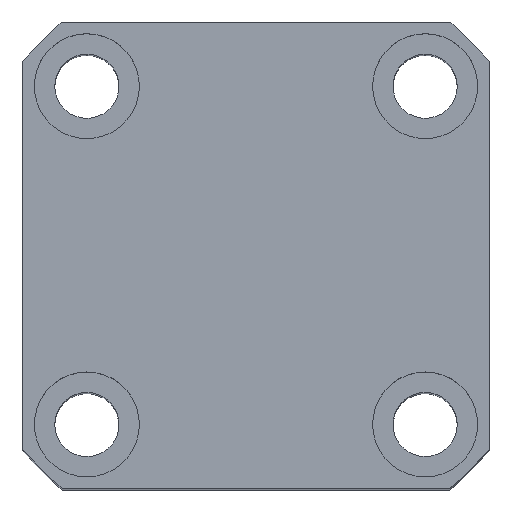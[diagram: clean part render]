
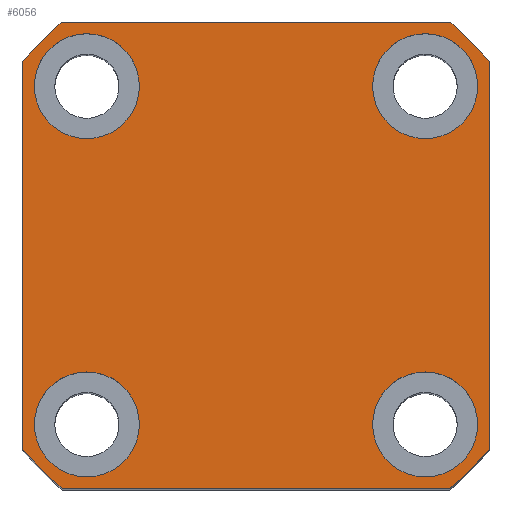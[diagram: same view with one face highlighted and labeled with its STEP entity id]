
A CAD part, top view. The second image highlights one B-rep face of the part: STEP entity #6056.
In plain terms, the highlighted planar face has unit normal (0, 0, 1).
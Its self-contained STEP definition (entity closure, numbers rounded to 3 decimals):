
#78 = EDGE_CURVE ( 'NONE', #2007, #1064, #3026, .T. ) ;
#188 = DIRECTION ( 'NONE',  ( 0., 0., 1. ) ) ;
#239 = CIRCLE ( 'NONE', #492, 9. ) ;
#358 = VECTOR ( 'NONE', #4172, 1000. ) ;
#394 = DIRECTION ( 'NONE',  ( 1., 0., 0. ) ) ;
#419 = CARTESIAN_POINT ( 'NONE',  ( 0., 0., 70. ) ) ;
#481 = CARTESIAN_POINT ( 'NONE',  ( 0., 0., 70. ) ) ;
#492 = AXIS2_PLACEMENT_3D ( 'NONE', #10453, #4705, #9617 ) ;
#525 = DIRECTION ( 'NONE',  ( 1., 0., 0. ) ) ;
#600 = CARTESIAN_POINT ( 'NONE',  ( 38., -29., 70. ) ) ;
#611 = CARTESIAN_POINT ( 'NONE',  ( 20., -29., 70. ) ) ;
#644 = VERTEX_POINT ( 'NONE', #8137 ) ;
#674 = AXIS2_PLACEMENT_3D ( 'NONE', #9545, #7855, #8811 ) ;
#678 = CARTESIAN_POINT ( 'NONE',  ( 29., -29., 70. ) ) ;
#688 = ORIENTED_EDGE ( 'NONE', *, *, #78, .T. ) ;
#776 = EDGE_CURVE ( 'NONE', #10511, #10022, #2346, .T. ) ;
#817 = ORIENTED_EDGE ( 'NONE', *, *, #1831, .F. ) ;
#843 = EDGE_CURVE ( 'NONE', #8769, #1997, #3267, .T. ) ;
#845 = FACE_BOUND ( 'NONE', #6580, .T. ) ;
#955 = VERTEX_POINT ( 'NONE', #7442 ) ;
#978 = CARTESIAN_POINT ( 'NONE',  ( -29., -29., 70. ) ) ;
#1050 = DIRECTION ( 'NONE',  ( 1., 0., 0. ) ) ;
#1060 = AXIS2_PLACEMENT_3D ( 'NONE', #5330, #8571, #9441 ) ;
#1064 = VERTEX_POINT ( 'NONE', #1818 ) ;
#1083 = CARTESIAN_POINT ( 'NONE',  ( 0., 0., 70. ) ) ;
#1219 = EDGE_CURVE ( 'NONE', #10022, #10511, #10700, .T. ) ;
#1303 = VECTOR ( 'NONE', #6231, 1000. ) ;
#1308 = CARTESIAN_POINT ( 'NONE',  ( 40., -33.226, 70. ) ) ;
#1330 = CARTESIAN_POINT ( 'NONE',  ( -29., -29., 70. ) ) ;
#1552 = CARTESIAN_POINT ( 'NONE',  ( 40., 33.226, 70. ) ) ;
#1818 = CARTESIAN_POINT ( 'NONE',  ( 33.226, 40., 70. ) ) ;
#1831 = EDGE_CURVE ( 'NONE', #9577, #9167, #1931, .T. ) ;
#1897 = VECTOR ( 'NONE', #8950, 1000. ) ;
#1931 = CIRCLE ( 'NONE', #2365, 9. ) ;
#1973 = EDGE_CURVE ( 'NONE', #7228, #955, #9386, .T. ) ;
#1997 = VERTEX_POINT ( 'NONE', #3081 ) ;
#2007 = VERTEX_POINT ( 'NONE', #9665 ) ;
#2015 = CIRCLE ( 'NONE', #674, 52. ) ;
#2107 = ORIENTED_EDGE ( 'NONE', *, *, #8727, .F. ) ;
#2175 = LINE ( 'NONE', #4076, #1897 ) ;
#2227 = AXIS2_PLACEMENT_3D ( 'NONE', #2457, #7509, #2418 ) ;
#2234 = EDGE_CURVE ( 'NONE', #644, #9414, #4177, .T. ) ;
#2322 = ORIENTED_EDGE ( 'NONE', *, *, #4929, .T. ) ;
#2346 = CIRCLE ( 'NONE', #3979, 9. ) ;
#2365 = AXIS2_PLACEMENT_3D ( 'NONE', #3465, #188, #7720 ) ;
#2418 = DIRECTION ( 'NONE',  ( 1., 0., 0. ) ) ;
#2457 = CARTESIAN_POINT ( 'NONE',  ( -29., 29., 70. ) ) ;
#2874 = DIRECTION ( 'NONE',  ( 1., 0., 0. ) ) ;
#2993 = CIRCLE ( 'NONE', #8379, 9. ) ;
#3022 = CARTESIAN_POINT ( 'NONE',  ( 38., 29., 70. ) ) ;
#3026 = CIRCLE ( 'NONE', #3066, 52. ) ;
#3066 = AXIS2_PLACEMENT_3D ( 'NONE', #419, #7114, #2874 ) ;
#3081 = CARTESIAN_POINT ( 'NONE',  ( -20., 29., 70. ) ) ;
#3125 = VERTEX_POINT ( 'NONE', #5140 ) ;
#3267 = CIRCLE ( 'NONE', #2227, 9. ) ;
#3314 = EDGE_CURVE ( 'NONE', #1064, #5734, #4447, .T. ) ;
#3317 = ORIENTED_EDGE ( 'NONE', *, *, #4799, .F. ) ;
#3465 = CARTESIAN_POINT ( 'NONE',  ( 29., 29., 70. ) ) ;
#3508 = EDGE_LOOP ( 'NONE', ( #4819, #4056 ) ) ;
#3603 = EDGE_LOOP ( 'NONE', ( #9193, #10399 ) ) ;
#3712 = DIRECTION ( 'NONE',  ( 1., 0., 0. ) ) ;
#3739 = EDGE_CURVE ( 'NONE', #10066, #644, #2175, .T. ) ;
#3916 = DIRECTION ( 'NONE',  ( 0., 0., 1. ) ) ;
#3929 = AXIS2_PLACEMENT_3D ( 'NONE', #978, #6970, #1050 ) ;
#3979 = AXIS2_PLACEMENT_3D ( 'NONE', #678, #8356, #8314 ) ;
#4056 = ORIENTED_EDGE ( 'NONE', *, *, #843, .F. ) ;
#4076 = CARTESIAN_POINT ( 'NONE',  ( -40., 33.226, 70. ) ) ;
#4172 = DIRECTION ( 'NONE',  ( 0., 1., 0. ) ) ;
#4177 = CIRCLE ( 'NONE', #6481, 52. ) ;
#4254 = CIRCLE ( 'NONE', #3929, 9. ) ;
#4447 = LINE ( 'NONE', #9548, #1303 ) ;
#4624 = CARTESIAN_POINT ( 'NONE',  ( -38., 29., 70. ) ) ;
#4676 = FACE_BOUND ( 'NONE', #8595, .T. ) ;
#4705 = DIRECTION ( 'NONE',  ( 0., 0., 1. ) ) ;
#4799 = EDGE_CURVE ( 'NONE', #955, #7228, #4254, .T. ) ;
#4819 = ORIENTED_EDGE ( 'NONE', *, *, #5275, .F. ) ;
#4929 = EDGE_CURVE ( 'NONE', #3125, #9090, #2015, .T. ) ;
#4999 = ORIENTED_EDGE ( 'NONE', *, *, #3739, .T. ) ;
#5140 = CARTESIAN_POINT ( 'NONE',  ( 33.226, -40., 70. ) ) ;
#5141 = EDGE_CURVE ( 'NONE', #9414, #3125, #10403, .T. ) ;
#5154 = CARTESIAN_POINT ( 'NONE',  ( -33.226, 40., 70. ) ) ;
#5275 = EDGE_CURVE ( 'NONE', #1997, #8769, #2993, .T. ) ;
#5330 = CARTESIAN_POINT ( 'NONE',  ( 29., -29., 70. ) ) ;
#5551 = DIRECTION ( 'NONE',  ( 1., 0., 0. ) ) ;
#5666 = CARTESIAN_POINT ( 'NONE',  ( -38., -29., 70. ) ) ;
#5716 = CARTESIAN_POINT ( 'NONE',  ( -29., 29., 70. ) ) ;
#5734 = VERTEX_POINT ( 'NONE', #5154 ) ;
#5742 = LINE ( 'NONE', #1552, #358 ) ;
#5766 = ORIENTED_EDGE ( 'NONE', *, *, #2234, .T. ) ;
#6056 = ADVANCED_FACE ( 'NONE', ( #6735, #845, #9481, #4676, #7264 ), #9697, .T. ) ;
#6231 = DIRECTION ( 'NONE',  ( -1., 0., 0. ) ) ;
#6377 = ORIENTED_EDGE ( 'NONE', *, *, #9888, .T. ) ;
#6481 = AXIS2_PLACEMENT_3D ( 'NONE', #1083, #9427, #7670 ) ;
#6573 = DIRECTION ( 'NONE',  ( 0., 0., 1. ) ) ;
#6580 = EDGE_LOOP ( 'NONE', ( #3317, #10638 ) ) ;
#6735 = FACE_BOUND ( 'NONE', #3603, .T. ) ;
#6737 = CARTESIAN_POINT ( 'NONE',  ( -33.226, -40., 70. ) ) ;
#6970 = DIRECTION ( 'NONE',  ( 0., 0., 1. ) ) ;
#7114 = DIRECTION ( 'NONE',  ( 0., 0., 1. ) ) ;
#7173 = CIRCLE ( 'NONE', #9956, 52. ) ;
#7190 = EDGE_LOOP ( 'NONE', ( #6377, #4999, #5766, #9455, #2322, #7633, #688, #10622 ) ) ;
#7228 = VERTEX_POINT ( 'NONE', #5666 ) ;
#7264 = FACE_OUTER_BOUND ( 'NONE', #7190, .T. ) ;
#7442 = CARTESIAN_POINT ( 'NONE',  ( -20., -29., 70. ) ) ;
#7509 = DIRECTION ( 'NONE',  ( 0., 0., 1. ) ) ;
#7633 = ORIENTED_EDGE ( 'NONE', *, *, #9261, .T. ) ;
#7670 = DIRECTION ( 'NONE',  ( 1., 0., 0. ) ) ;
#7720 = DIRECTION ( 'NONE',  ( 1., 0., 0. ) ) ;
#7855 = DIRECTION ( 'NONE',  ( 0., 0., 1. ) ) ;
#8137 = CARTESIAN_POINT ( 'NONE',  ( -40., -33.226, 70. ) ) ;
#8145 = DIRECTION ( 'NONE',  ( 1., 0., 0. ) ) ;
#8314 = DIRECTION ( 'NONE',  ( 1., 0., 0. ) ) ;
#8356 = DIRECTION ( 'NONE',  ( 0., 0., 1. ) ) ;
#8379 = AXIS2_PLACEMENT_3D ( 'NONE', #5716, #6573, #8145 ) ;
#8571 = DIRECTION ( 'NONE',  ( 0., 0., 1. ) ) ;
#8595 = EDGE_LOOP ( 'NONE', ( #2107, #817 ) ) ;
#8727 = EDGE_CURVE ( 'NONE', #9167, #9577, #239, .T. ) ;
#8769 = VERTEX_POINT ( 'NONE', #4624 ) ;
#8811 = DIRECTION ( 'NONE',  ( 1., 0., 0. ) ) ;
#8950 = DIRECTION ( 'NONE',  ( 0., -1., 0. ) ) ;
#9075 = AXIS2_PLACEMENT_3D ( 'NONE', #1330, #3916, #5551 ) ;
#9090 = VERTEX_POINT ( 'NONE', #1308 ) ;
#9167 = VERTEX_POINT ( 'NONE', #3022 ) ;
#9193 = ORIENTED_EDGE ( 'NONE', *, *, #776, .F. ) ;
#9236 = AXIS2_PLACEMENT_3D ( 'NONE', #481, #9624, #525 ) ;
#9261 = EDGE_CURVE ( 'NONE', #9090, #2007, #5742, .T. ) ;
#9386 = CIRCLE ( 'NONE', #9075, 9. ) ;
#9414 = VERTEX_POINT ( 'NONE', #6737 ) ;
#9427 = DIRECTION ( 'NONE',  ( 0., 0., 1. ) ) ;
#9441 = DIRECTION ( 'NONE',  ( 1., 0., 0. ) ) ;
#9455 = ORIENTED_EDGE ( 'NONE', *, *, #5141, .T. ) ;
#9481 = FACE_BOUND ( 'NONE', #3508, .T. ) ;
#9497 = VECTOR ( 'NONE', #3712, 1000. ) ;
#9533 = CARTESIAN_POINT ( 'NONE',  ( 0., 0., 70. ) ) ;
#9543 = CARTESIAN_POINT ( 'NONE',  ( -33.226, -40., 70. ) ) ;
#9545 = CARTESIAN_POINT ( 'NONE',  ( 0., 0., 70. ) ) ;
#9548 = CARTESIAN_POINT ( 'NONE',  ( -33.226, 40., 70. ) ) ;
#9577 = VERTEX_POINT ( 'NONE', #10021 ) ;
#9617 = DIRECTION ( 'NONE',  ( 1., 0., 0. ) ) ;
#9624 = DIRECTION ( 'NONE',  ( 0., 0., 1. ) ) ;
#9665 = CARTESIAN_POINT ( 'NONE',  ( 40., 33.226, 70. ) ) ;
#9697 = PLANE ( 'NONE',  #9236 ) ;
#9888 = EDGE_CURVE ( 'NONE', #5734, #10066, #7173, .T. ) ;
#9956 = AXIS2_PLACEMENT_3D ( 'NONE', #9533, #10475, #394 ) ;
#10021 = CARTESIAN_POINT ( 'NONE',  ( 20., 29., 70. ) ) ;
#10022 = VERTEX_POINT ( 'NONE', #611 ) ;
#10066 = VERTEX_POINT ( 'NONE', #10837 ) ;
#10399 = ORIENTED_EDGE ( 'NONE', *, *, #1219, .F. ) ;
#10403 = LINE ( 'NONE', #9543, #9497 ) ;
#10453 = CARTESIAN_POINT ( 'NONE',  ( 29., 29., 70. ) ) ;
#10475 = DIRECTION ( 'NONE',  ( 0., 0., 1. ) ) ;
#10511 = VERTEX_POINT ( 'NONE', #600 ) ;
#10622 = ORIENTED_EDGE ( 'NONE', *, *, #3314, .T. ) ;
#10638 = ORIENTED_EDGE ( 'NONE', *, *, #1973, .F. ) ;
#10700 = CIRCLE ( 'NONE', #1060, 9. ) ;
#10837 = CARTESIAN_POINT ( 'NONE',  ( -40., 33.226, 70. ) ) ;
